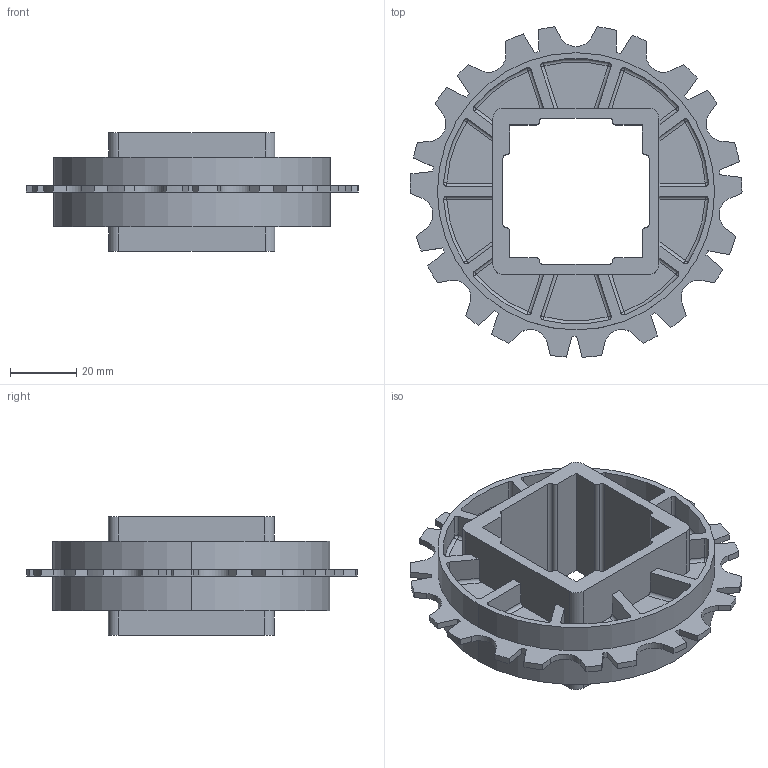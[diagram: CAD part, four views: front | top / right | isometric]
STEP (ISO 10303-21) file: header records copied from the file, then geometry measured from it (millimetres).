
FILE_DESCRIPTION(('CATIA V5 STEP Exchange'),'2;1');
FILE_NAME('C:\Users\ALI OZGUN\Desktop\alhan\eksikler\380ABD212.stp','2017-12-29T10:23:27+00:00',('none'),('none'),'CATIA Version 5 Release 21 GA (IN-10)','CATIA V5 STEP AP203','none');
FILE_SCHEMA(('CONFIG_CONTROL_DESIGN'));
Length unit declared in the file: millimetre
Products named in the file (1): 380ABD212
Bounding box: 100 x 99.54 x 35.75 mm (x, y, z)
Volume: 56733.9 mm3; surface area: 34739.5 mm2
Topology: 1 solids, 1 shells, 364 faces, 1010 edges, 612 vertices
Faces by surface type: cylinder 174, plane 130, sphere 40, torus 20
Entity records: 10842 total; most frequent: CARTESIAN_POINT 2289, ORIENTED_EDGE 1940, DIRECTION 1454, EDGE_CURVE 970, AXIS2_PLACEMENT_3D 635, VERTEX_POINT 612, VECTOR 562, LINE 562
